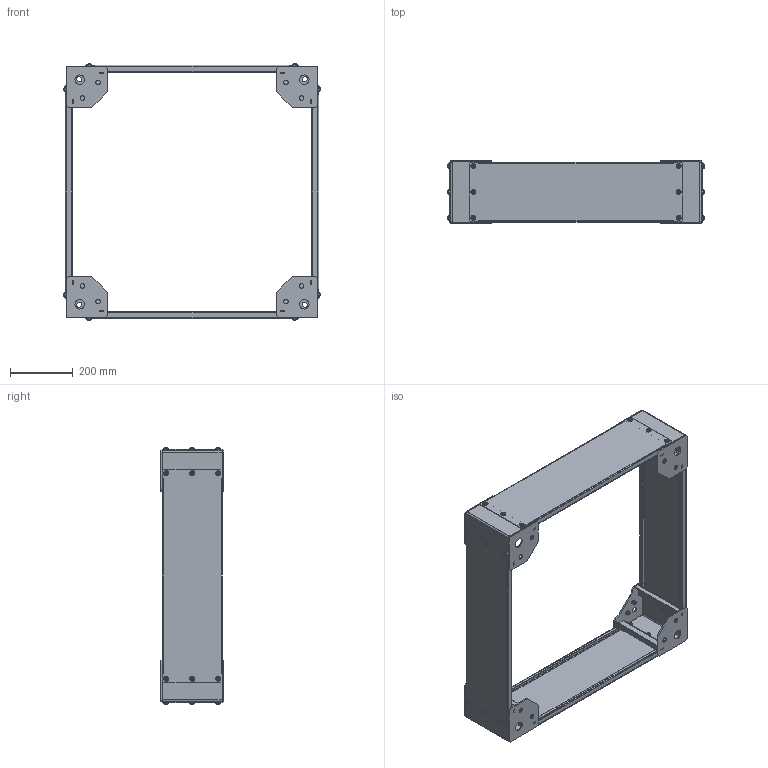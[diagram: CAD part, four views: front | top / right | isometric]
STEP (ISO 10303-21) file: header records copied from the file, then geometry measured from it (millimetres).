
FILE_DESCRIPTION (( 'STEP AP203' ), '1' );
FILE_NAME ('ZA 80.80 EQH 捘 絊膰錪.STEP', '2024-05-02T12:29:30', ( '' ), ( '' ), 'SwSTEP 2.0', 'SolidWorks 2022', '' );
FILE_SCHEMA (( 'CONFIG_CONTROL_DESIGN' ));
Length unit declared in the file: millimetre
Products named in the file (9): ZA EQ 00.002 Пластина верхняя_100; ZA EQ 00.003 (Д199) Угловой элемент; Заклепка вытяжная резьбовая рифленая оц. М8_Гайка М8 вытяжная - S3.0; Винт М8х16 ISO 7380 c фланцем (S 8.16 MX)_S 8.16 MX; Шайба 8 стопорная DIN 6798; ZA 60 EQ 00.001 (Д199) Панель цоколя_ZA 80 EQ 00.001 (Д199) Панель цоколя; ZA 80.80 EQH СБ Цоколь; ZA EQ 00.001 Пластина нижняя_100; ZA EQ (Д199) СБ Угол цоколя
Assembly tree (67 placements, depth 3):
  ZA 80.80 EQH СБ Цоколь
    ZA EQ (Д199) СБ Угол цоколя  x4
      ZA EQ 00.001 Пластина нижняя_100
      ZA EQ 00.002 Пластина верхняя_100
      ZA EQ 00.003 (Д199) Угловой элемент
      Заклепка вытяжная резьбовая рифленая оц. М8_Гайка М8 вытяжная - S3.0
    ZA 60 EQ 00.001 (Д199) Панель цоколя_ZA 80 EQ 00.001 (Д199) Панель цоколя  x4
    Винт М8х16 ISO 7380 c фланцем (S 8.16 MX)_S 8.16 MX  x24
    Шайба 8 стопорная DIN 6798  x24
Bounding box: 817.54 x 201.3 x 817.54 mm (x, y, z)
Volume: 2511810.1 mm3; surface area: 2119569.8 mm2
Topology: 72 solids, 120 shells, 4616 faces, 12568 edges, 8320 vertices
Faces by surface type: bspline 1440, cylinder 1408, plane 1336, torus 224, cone 160, sphere 48
Entity records: 15576 total; most frequent: CARTESIAN_POINT 3291, ORIENTED_EDGE 2094, DIRECTION 1952, EDGE_CURVE 1050, VERTEX_POINT 688, AXIS2_PLACEMENT_3D 651, LINE 650, VECTOR 650
